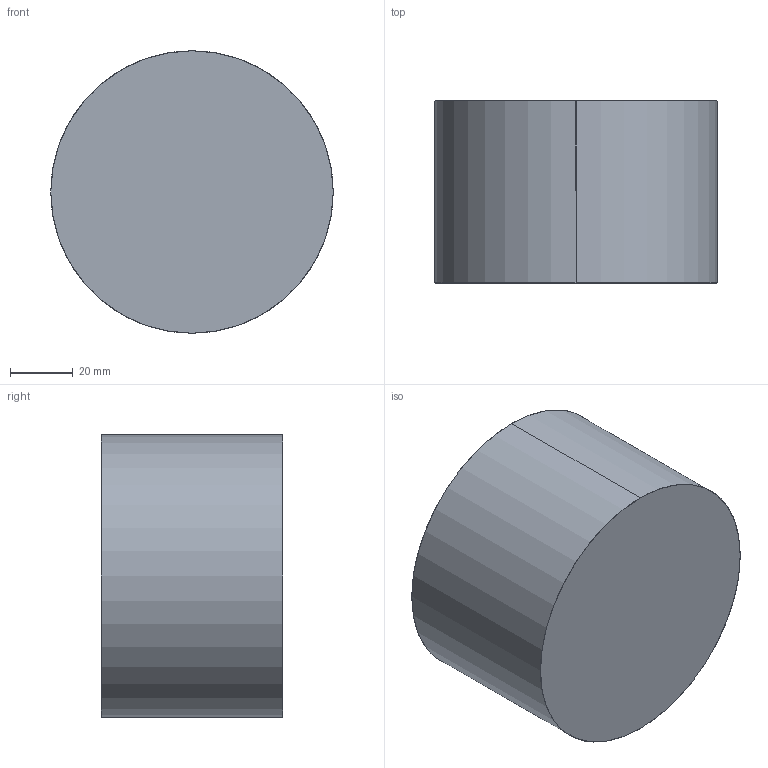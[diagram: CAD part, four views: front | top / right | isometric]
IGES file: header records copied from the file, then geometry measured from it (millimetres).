
Start section: SolidWorks IGES file using analytic representation for surfaces
Global section: file name: C:\Users\danielet\Desktop\3D CARLOS\LINUS-38459-3D\LINUS-38459-3D.IGS; native system: SolidWorks 2018; preprocessor: SolidWorks 2018; author: danielet; date: 220105.094619; units: millimetre
Bounding box: 90 x 58 x 90 mm (x, y, z)
Surface area: 29625.2 mm2 (no closed solid volume)
Topology: 0 solids, 0 shells, 7 faces, 272 edges, 272 vertices
Faces by surface type: revolution 4, bspline 3
